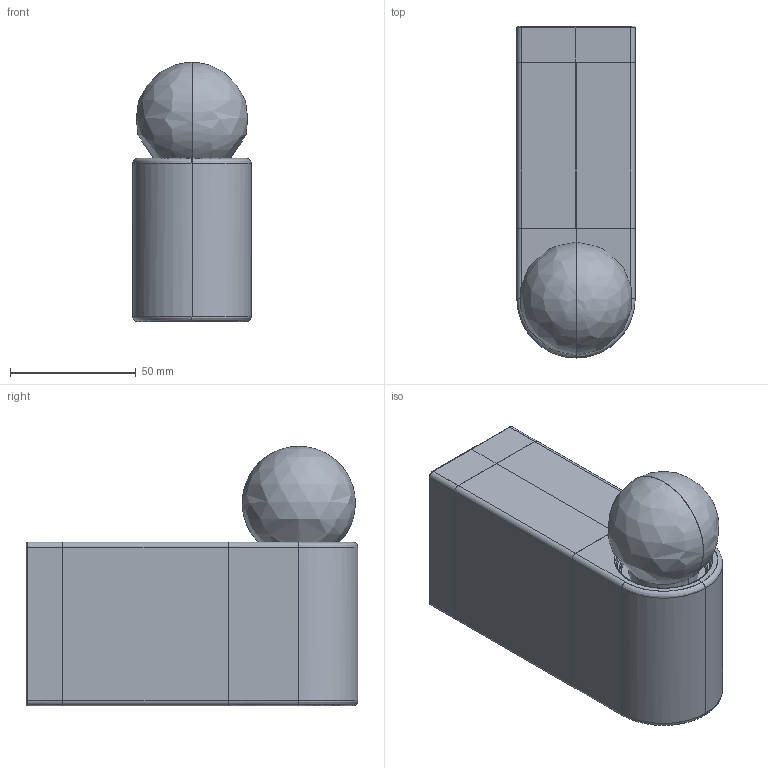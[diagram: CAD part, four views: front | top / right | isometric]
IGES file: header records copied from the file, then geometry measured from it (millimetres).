
Start section: Use this template file for building objects the size of a truck or smaller, and for objects which must be built to manufacturing tolerances. Units: Millimeters Absolute tolerance: .001 mm
Global section: file name: /Volumes/Company/WIP/Marlen/WFH/Website/SALES 3D/WPS/MA_WPS_D2_3D_2018/MA_White Porcelain Series D2_240V_2017.igs; preprocessor: Trout Lake IGES 012 Dec  4 2019; date: 201130.115047; units: millimetre
Bounding box: 47 x 132 x 103.14 mm (x, y, z)
Surface area: 47238.9 mm2 (no closed solid volume)
Topology: 0 solids, 0 shells, 126 faces, 902 edges, 899 vertices
Faces by surface type: bspline 126
